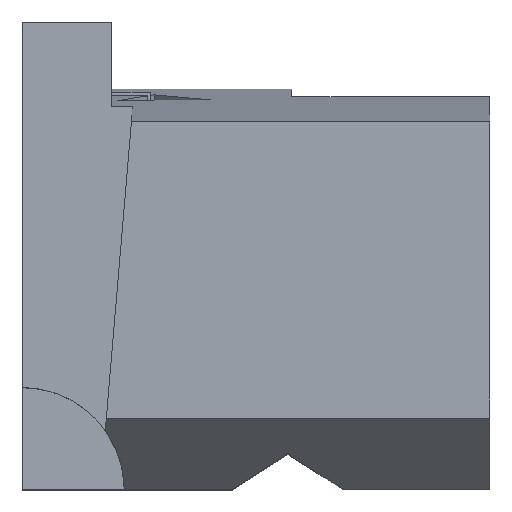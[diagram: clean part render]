
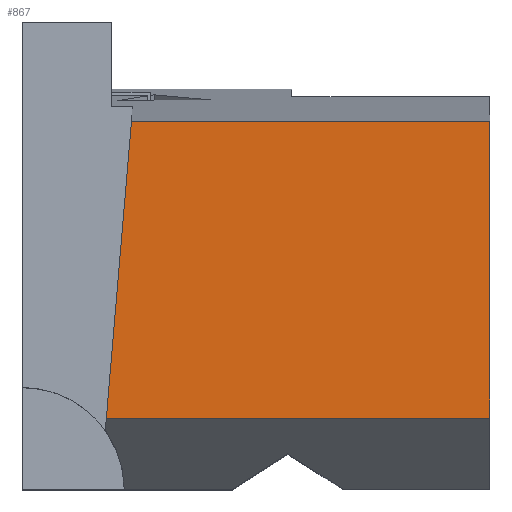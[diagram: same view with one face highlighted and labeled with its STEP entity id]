
A CAD part, top view. The second image highlights one B-rep face of the part: STEP entity #867.
In plain terms, the highlighted planar face has unit normal (0, 0, 1).
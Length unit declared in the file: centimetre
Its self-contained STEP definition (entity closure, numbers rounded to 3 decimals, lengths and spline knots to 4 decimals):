
#11 = FACE_OUTER_BOUND ( 'NONE', #82, .T. ) ;
#18 = EDGE_CURVE ( 'NONE', #258, #911, #419, .T. ) ;
#24 = ORIENTED_EDGE ( 'NONE', *, *, #441, .T. ) ;
#74 = VECTOR ( 'NONE', #621, 100. ) ;
#82 = EDGE_LOOP ( 'NONE', ( #371, #24, #657, #215 ) ) ;
#146 = CARTESIAN_POINT ( 'NONE',  ( 1000., 152.1108, 1000. ) ) ;
#159 = DIRECTION ( 'NONE',  ( 0., 1., 0. ) ) ;
#170 = CARTESIAN_POINT ( 'NONE',  ( 0., 0., 1000. ) ) ;
#171 = EDGE_CURVE ( 'NONE', #415, #258, #300, .T. ) ;
#185 = EDGE_CURVE ( 'NONE', #509, #911, #551, .T. ) ;
#215 = ORIENTED_EDGE ( 'NONE', *, *, #18, .F. ) ;
#258 = VERTEX_POINT ( 'NONE', #709 ) ;
#300 = LINE ( 'NONE', #704, #74 ) ;
#321 = DIRECTION ( 'NONE',  ( 0., 0., 1. ) ) ;
#371 = ORIENTED_EDGE ( 'NONE', *, *, #171, .F. ) ;
#415 = VERTEX_POINT ( 'NONE', #893 ) ;
#419 = LINE ( 'NONE', #528, #508 ) ;
#441 = EDGE_CURVE ( 'NONE', #415, #509, #820, .T. ) ;
#507 = DIRECTION ( 'NONE',  ( 1., 0., 0. ) ) ;
#508 = VECTOR ( 'NONE', #507, 100. ) ;
#509 = VERTEX_POINT ( 'NONE', #146 ) ;
#516 = CARTESIAN_POINT ( 'NONE',  ( 1000., 787.2124, 1000. ) ) ;
#528 = CARTESIAN_POINT ( 'NONE',  ( 191.453, 787.2124, 1000. ) ) ;
#551 = LINE ( 'NONE', #855, #612 ) ;
#559 = DIRECTION ( 'NONE',  ( 1., 0., 0. ) ) ;
#581 = AXIS2_PLACEMENT_3D ( 'NONE', #170, #321, #653 ) ;
#612 = VECTOR ( 'NONE', #159, 100. ) ;
#621 = DIRECTION ( 'NONE',  ( 0.084, 0.996, 0. ) ) ;
#653 = DIRECTION ( 'NONE',  ( 1., 0., 0. ) ) ;
#657 = ORIENTED_EDGE ( 'NONE', *, *, #185, .T. ) ;
#704 = CARTESIAN_POINT ( 'NONE',  ( 251.6193, 1000., 1000. ) ) ;
#709 = CARTESIAN_POINT ( 'NONE',  ( 233.627, 787.2124, 1000. ) ) ;
#820 = LINE ( 'NONE', #946, #907 ) ;
#855 = CARTESIAN_POINT ( 'NONE',  ( 1000., 1000., 1000. ) ) ;
#867 = ADVANCED_FACE ( 'NONE', ( #11 ), #960, .T. ) ;
#893 = CARTESIAN_POINT ( 'NONE',  ( 179.9256, 152.1108, 1000. ) ) ;
#907 = VECTOR ( 'NONE', #559, 100. ) ;
#911 = VERTEX_POINT ( 'NONE', #516 ) ;
#946 = CARTESIAN_POINT ( 'NONE',  ( 175.7179, 152.1108, 1000. ) ) ;
#960 = PLANE ( 'NONE',  #581 ) ;
